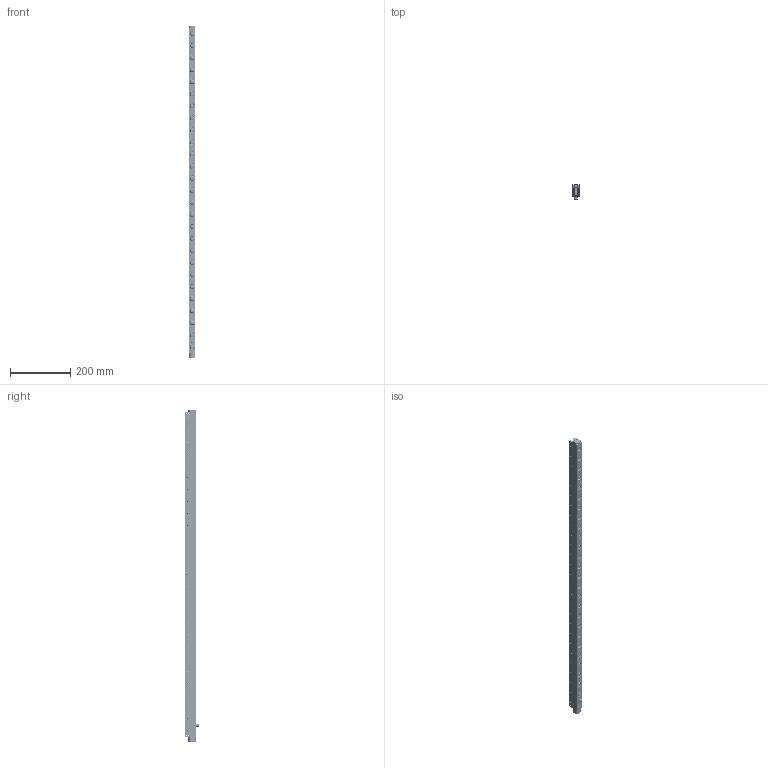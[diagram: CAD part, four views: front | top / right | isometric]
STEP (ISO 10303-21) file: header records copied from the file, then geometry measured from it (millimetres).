
FILE_DESCRIPTION(/* description */ (''),/* implementation_level */ '2;1');
FILE_NAME(/* name */ 'S:\EASCN Vault\Designs\Standard Part\DIE LIFTERS\EHR\EHR- 3D step\EHR22 - 3D step complete serie\EHR22-27.stp',/* time_stamp */ '2019-07-30T16:56:38+08:00',/* author */ ('yue.yang'),/* organization */ (''),/* preprocessor_version */ 'ST-DEVELOPER v17',/* originating_system */ 'Autodesk Inventor 2019',/* authorisation */ '');
FILE_SCHEMA (('AUTOMOTIVE_DESIGN { 1 0 10303 214 3 1 1 }'));
Products named in the file (1): EHR22-27_Shrinkwrap_1
Bounding box: 21.8 x 48.05 x 1102 mm (x, y, z)
Volume: 671761.2 mm3; surface area: 255677.9 mm2
Topology: 9 solids, 9 shells, 1615 faces, 4777 edges, 3288 vertices
Faces by surface type: cylinder 552, plane 416, cone 298, torus 294, sphere 55
Full cylindrical faces by diameter (mm): 3 x9, 3.2 x8, 4 x8, 5 x108, 6 x36, 8.566 x1, 10 x3, 11 x27, 12.5 x54, 13.4 x27, 13.8 x27, 15.95 x54, 16 x78
Entity records: 60924 total; most frequent: CARTESIAN_POINT 13603, DIRECTION 10572, ORIENTED_EDGE 9492, EDGE_CURVE 4746, AXIS2_PLACEMENT_3D 4727, VERTEX_POINT 3292, CIRCLE 3111, EDGE_LOOP 1966
